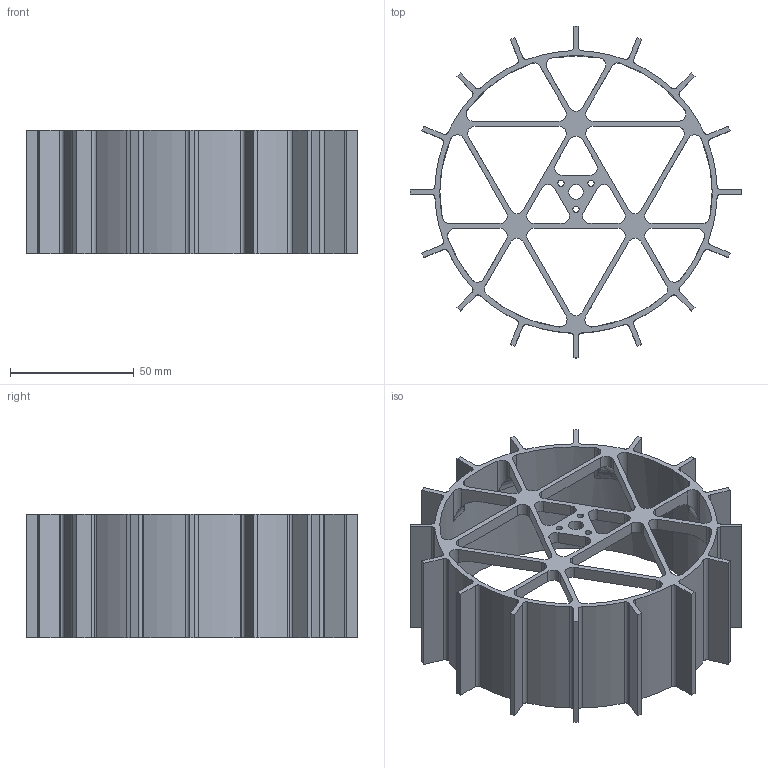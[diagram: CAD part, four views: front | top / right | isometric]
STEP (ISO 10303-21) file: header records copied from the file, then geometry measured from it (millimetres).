
FILE_DESCRIPTION (( 'STEP AP214' ), '1' );
FILE_NAME ('Pikemad_hambad2.STEP', '2025-05-19T12:10:23', ( '' ), ( '' ), 'SwSTEP 2.0', 'SolidWorks 2024', '' );
FILE_SCHEMA (( 'AUTOMOTIVE_DESIGN' ));
Length unit declared in the file: millimetre
Products named in the file (1): Pikemad_hambad2
Bounding box: 134 x 134 x 50 mm (x, y, z)
Volume: 60868.4 mm3; surface area: 60886 mm2
Topology: 1 solids, 1 shells, 238 faces, 729 edges, 479 vertices
Faces by surface type: cylinder 140, plane 71, torus 18, bspline 9
Entity records: 11217 total; most frequent: CARTESIAN_POINT 4505, ORIENTED_EDGE 1452, DIRECTION 1415, EDGE_CURVE 726, AXIS2_PLACEMENT_3D 528, VERTEX_POINT 479, VECTOR 359, LINE 359
